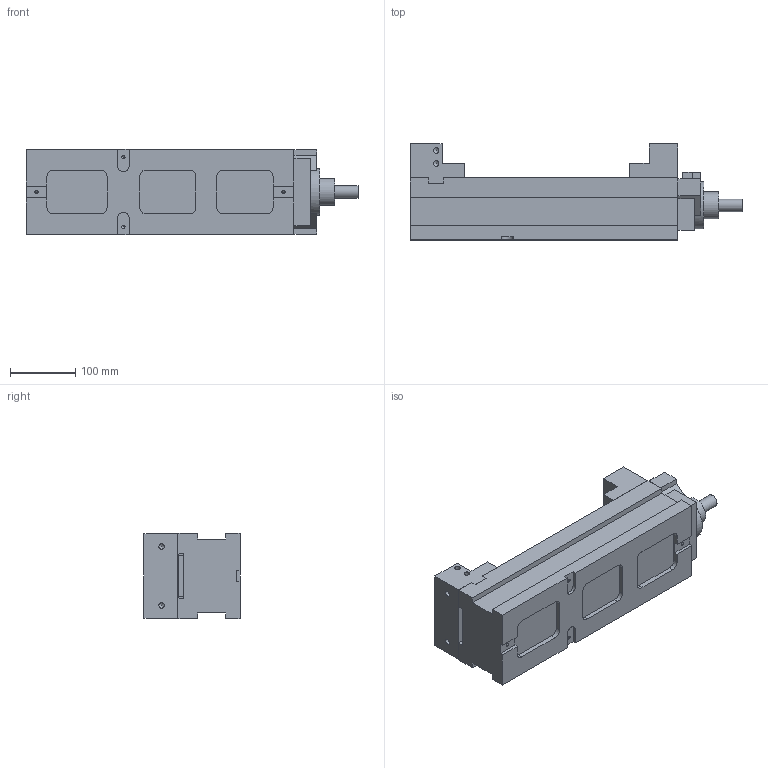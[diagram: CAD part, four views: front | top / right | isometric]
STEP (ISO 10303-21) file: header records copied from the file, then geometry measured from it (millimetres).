
FILE_DESCRIPTION(('STEP AP214'), '1');
FILE_NAME('BB.VS.130.11.001 捘', '', ('UNSPECIFIED'), ('UNSPECIFIED'), 'ASCON STEP Converter 1.6', 'ASCON Math Kernel', '');
FILE_SCHEMA(('AUTOMOTIVE_DESIGN { 1 0 10303 214 3 1 1}'));
Length unit declared in the file: millimetre
Products named in the file (4): BB.VS.130.11.001; BB.VS.130.11.001.01; BB.VS.130.21.030/001; BB.VS.130.21.030/002
Assembly tree (3 placements, depth 2):
  BB.VS.130.11.001
    BB.VS.130.11.001.01
    BB.VS.130.21.030/001
    BB.VS.130.21.030/002
Bounding box: 508 x 147 x 131 mm (x, y, z)
Volume: 5513221.5 mm3; surface area: 359443.3 mm2
Topology: 3 solids, 3 shells, 202 faces, 513 edges, 336 vertices
Faces by surface type: plane 133, cylinder 53, cone 16
Full cylindrical faces by diameter (mm): 5 x8, 8.5 x8, 13 x4, 16 x4, 17.5 x4, 19 x1, 20 x8, 41 x1, 72 x1
Entity records: 9071 total; most frequent: CARTESIAN_POINT 2632, DIRECTION 930, ORIENTED_EDGE 884, EDGE_CURVE 442, LINE 334, VECTOR 334, VERTEX_POINT 320, AXIS2_PLACEMENT_3D 298
